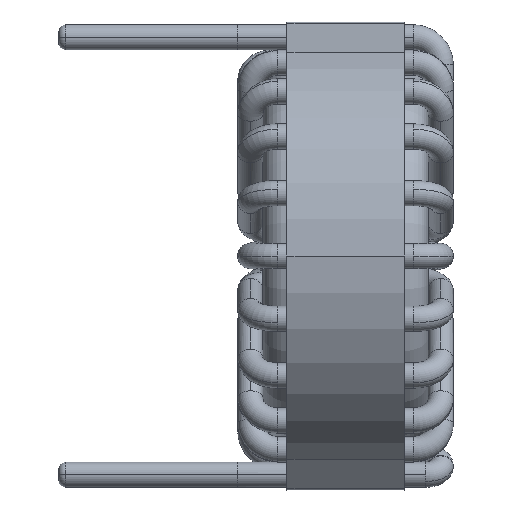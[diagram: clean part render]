
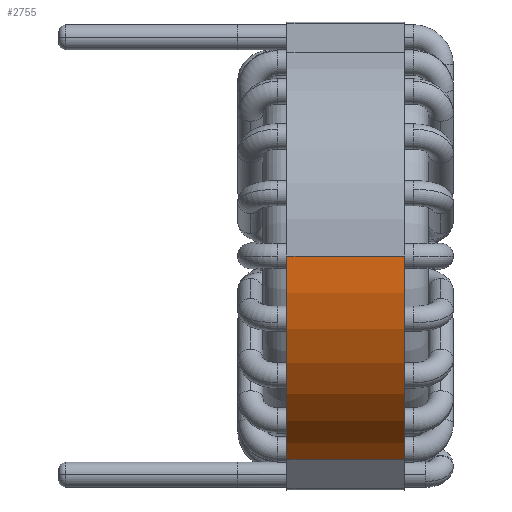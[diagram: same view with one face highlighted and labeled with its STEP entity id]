
A CAD part, left-side view. The second image highlights one B-rep face of the part: STEP entity #2755.
In plain terms, the highlighted cylindrical face has radius 15.88 mm (diameter 31.76 mm), a partial arc.
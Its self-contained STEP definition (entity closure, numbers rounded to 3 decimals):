
#554 = ORIENTED_EDGE ( 'NONE', *, *, #10541, .T. ) ;
#742 = VECTOR ( 'NONE', #25240, 1000. ) ;
#894 = AXIS2_PLACEMENT_3D ( 'NONE', #10216, #5973, #3903 ) ;
#1481 = ORIENTED_EDGE ( 'NONE', *, *, #24097, .F. ) ;
#1516 = EDGE_LOOP ( 'NONE', ( #1481, #6338, #554, #18666 ) ) ;
#1871 = VERTEX_POINT ( 'NONE', #14599 ) ;
#2755 = ADVANCED_FACE ( 'NONE', ( #12614 ), #15536, .T. ) ;
#3471 = VECTOR ( 'NONE', #26822, 1000. ) ;
#3903 = DIRECTION ( 'NONE',  ( 1., 0., 0. ) ) ;
#4637 = EDGE_CURVE ( 'NONE', #5257, #9117, #11873, .T. ) ;
#4648 = DIRECTION ( 'NONE',  ( 0., 0., 1. ) ) ;
#5257 = VERTEX_POINT ( 'NONE', #23605 ) ;
#5335 = CIRCLE ( 'NONE', #26616, 15.88 ) ;
#5973 = DIRECTION ( 'NONE',  ( 0., 0., 1. ) ) ;
#6338 = ORIENTED_EDGE ( 'NONE', *, *, #4637, .T. ) ;
#7916 = CARTESIAN_POINT ( 'NONE',  ( -5.834, -14.77, -4.25 ) ) ;
#8055 = EDGE_CURVE ( 'NONE', #1871, #18814, #10688, .T. ) ;
#8859 = CARTESIAN_POINT ( 'NONE',  ( 0., 0., 4.25 ) ) ;
#9117 = VERTEX_POINT ( 'NONE', #16327 ) ;
#10145 = CARTESIAN_POINT ( 'NONE',  ( -5.834, -14.77, 4.25 ) ) ;
#10216 = CARTESIAN_POINT ( 'NONE',  ( 0., 0., -4.25 ) ) ;
#10280 = AXIS2_PLACEMENT_3D ( 'NONE', #8859, #11026, #15149 ) ;
#10541 = EDGE_CURVE ( 'NONE', #9117, #18814, #14247, .T. ) ;
#10688 = LINE ( 'NONE', #10145, #3471 ) ;
#11026 = DIRECTION ( 'NONE',  ( 0., 0., -1. ) ) ;
#11873 = LINE ( 'NONE', #12634, #742 ) ;
#12614 = FACE_OUTER_BOUND ( 'NONE', #1516, .T. ) ;
#12634 = CARTESIAN_POINT ( 'NONE',  ( -15.88, 0., 4.25 ) ) ;
#14247 = CIRCLE ( 'NONE', #894, 15.88 ) ;
#14599 = CARTESIAN_POINT ( 'NONE',  ( -5.834, -14.77, 4.25 ) ) ;
#15149 = DIRECTION ( 'NONE',  ( -1., 0., 0. ) ) ;
#15536 = CYLINDRICAL_SURFACE ( 'NONE', #10280, 15.88 ) ;
#16327 = CARTESIAN_POINT ( 'NONE',  ( -15.88, 0., -4.25 ) ) ;
#18666 = ORIENTED_EDGE ( 'NONE', *, *, #8055, .F. ) ;
#18814 = VERTEX_POINT ( 'NONE', #7916 ) ;
#19374 = CARTESIAN_POINT ( 'NONE',  ( 0., 0., 4.25 ) ) ;
#23605 = CARTESIAN_POINT ( 'NONE',  ( -15.88, 0., 4.25 ) ) ;
#23768 = DIRECTION ( 'NONE',  ( 1., 0., 0. ) ) ;
#24097 = EDGE_CURVE ( 'NONE', #5257, #1871, #5335, .T. ) ;
#25240 = DIRECTION ( 'NONE',  ( 0., 0., -1. ) ) ;
#26616 = AXIS2_PLACEMENT_3D ( 'NONE', #19374, #4648, #23768 ) ;
#26822 = DIRECTION ( 'NONE',  ( 0., 0., -1. ) ) ;
